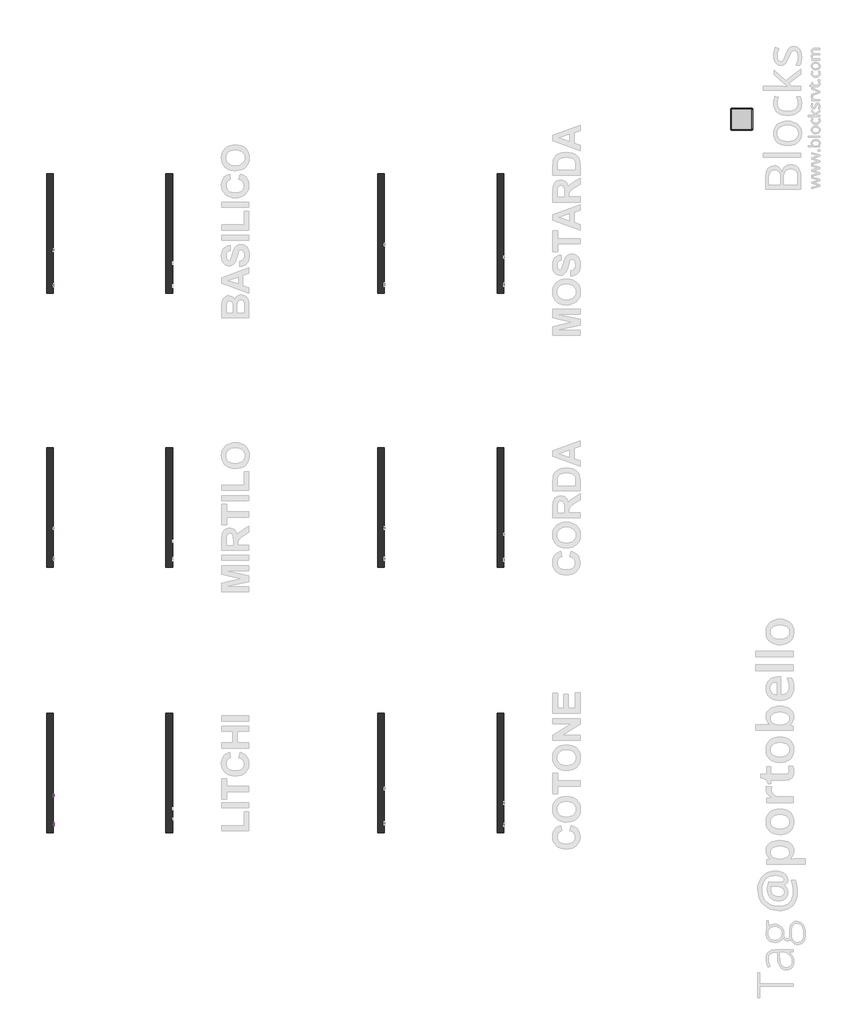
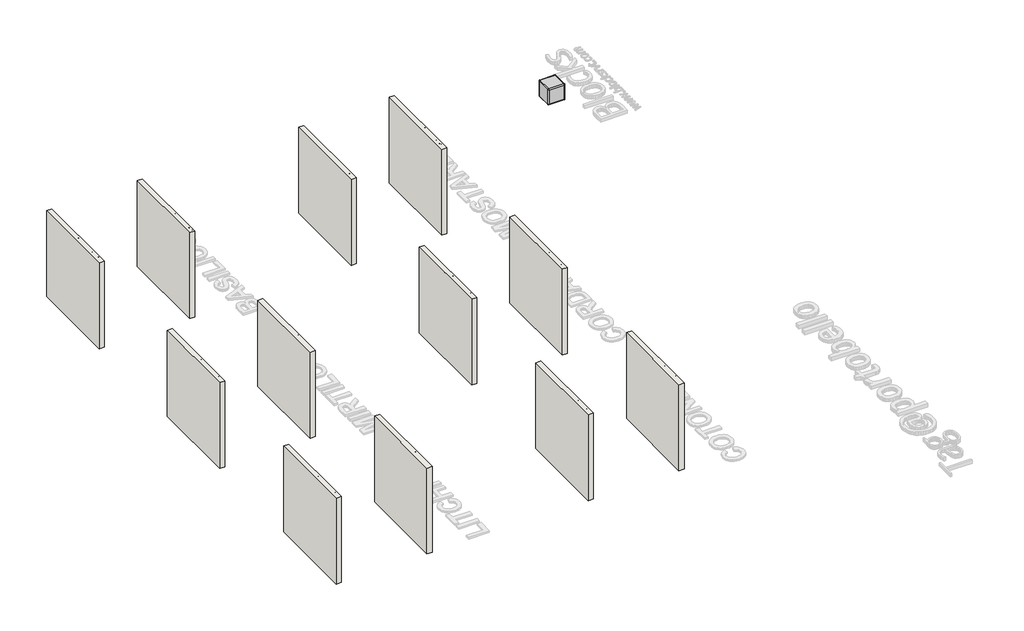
# One storey, part 1 of 9: 12 walls, 2 proxies, 1 furniture element.
"""IFC4 building model written with IfcOpenShell, lengths in millimetres."""

from ifc_helpers import new_model, si_unit, frame, origin, origin_with_axes, place, context, project, spatial, polyline, outline, extrude, transform, mapped, element, save
from components import branco_22256ad2

model = new_model("IFC4")

# Units and contexts
model_context = context("Model", 3, world=origin())
ifc_project = project(units=[si_unit("LENGTHUNIT", "METRE", prefix="MILLI")], contexts=[model_context])

# Site, building, storey
site = spatial("IfcSite", under=ifc_project)
building = spatial("IfcBuilding", under=site)
storey = spatial("IfcBuildingStorey", under=building, Name="PORTOBELLO - SHOWROOM", Elevation=0.0)

# Proxies
placement = place(None, origin())
element("IfcBuildingElementProxy", 1, Name="10mm Arial", ObjectType="10mm Arial", at=placement, inside=storey, context=model_context, shape_type="SweptSolid", body=[
    extrude(outline(polyline([(-8457.3307044, 2556.5874175), (-8457.3307044, 2657.0437276), (-8435.7237686, 2657.0437276), (-8415.1714278, 2586.2387063), (-8411.026624, 2571.4498501), (-8406.5384636, 2587.4649796), (-8386.3294794, 2657.0437276), (-8364.7225435, 2657.0437276), (-8364.7225435, 2556.5874175), (-8377.2795823, 2556.5874175), (-8377.2795823, 2644.4866889), (-8402.5162872, 2556.5874175), (-8419.5369608, 2556.5874175), (-8444.7736657, 2644.4866889), (-8444.7736657, 2556.5874175), (-8457.3307044, 2556.5874175)])), frame((-2200.641693, 0.0, 0.0), z_axis=(1.0, 0.0, 0.0), x_axis=(0.0, 1.0, 0.0)), (0.0, 0.0, 1.0), 20.0),
    extrude(outline(polyline([(-2180.641693, -8331.7603168), (-2180.641693, -8344.3173555), (-2200.641693, -8344.3173555), (-2200.641693, -8331.7603168), (-2180.641693, -8331.7603168)])), frame((0.0, 0.0, 2644.4866889), z_axis=(0.0, 0.0, 1.0), x_axis=(1.0, 0.0, 0.0)), (0.0, 0.0, 1.0), 12.5570388),
    extrude(outline(polyline([(-2180.641693, -8331.7603168), (-2180.641693, -8344.3173555), (-2200.641693, -8344.3173555), (-2200.641693, -8331.7603168), (-2180.641693, -8331.7603168)])), frame((0.0, 0.0, 2556.5874175), z_axis=(0.0, 0.0, 1.0), x_axis=(1.0, 0.0, 0.0)), (0.0, 0.0, 1.0), 73.7726028),
    extrude(outline(polyline([(-8312.9247586, 2556.5874175), (-8312.9247586, 2630.3600203), (-8300.3677198, 2630.3600203), (-8300.3677198, 2620.0593244), (-8290.7659998, 2628.9620687), (-8277.657138, 2631.9296501), (-8265.799075, 2629.5384171), (-8257.7056711, 2623.2598977), (-8253.941012, 2614.0260597), (-8253.2788245, 2601.8859538), (-8253.2788245, 2556.5874175), (-8265.8358632, 2556.5874175), (-8265.8358632, 2600.1936966), (-8267.2828657, 2611.3037329), (-8272.3964255, 2617.1775821), (-8281.0171269, 2619.3726113), (-8294.6410234, 2614.4429926), (-8298.9360457, 2607.2999505), (-8300.3677198, 2595.7300618), (-8300.3677198, 2556.5874175), (-8312.9247586, 2556.5874175)])), frame((-2200.641693, 0.0, 0.0), z_axis=(1.0, 0.0, 0.0), x_axis=(0.0, 1.0, 0.0)), (0.0, 0.0, 1.0), 20.0),
    extrude(outline(polyline([(-2180.641693, -8223.4558574), (-2180.641693, -8236.0128961), (-2200.641693, -8236.0128961), (-2200.641693, -8223.4558574), (-2180.641693, -8223.4558574)])), frame((0.0, 0.0, 2644.4866889), z_axis=(0.0, 0.0, 1.0), x_axis=(1.0, 0.0, 0.0)), (0.0, 0.0, 1.0), 12.5570388),
    extrude(outline(polyline([(-2180.641693, -8223.4558574), (-2180.641693, -8236.0128961), (-2200.641693, -8236.0128961), (-2200.641693, -8223.4558574), (-2180.641693, -8223.4558574)])), frame((0.0, 0.0, 2556.5874175), z_axis=(0.0, 0.0, 1.0), x_axis=(1.0, 0.0, 0.0)), (0.0, 0.0, 1.0), 73.7726028),
    extrude(outline(polyline([(-8163.8099232, 2556.5874175), (-8163.8099232, 2657.0437276), (-8151.2528845, 2657.0437276), (-8151.2528845, 2569.1444563), (-8101.0247294, 2569.1444563), (-8101.0247294, 2556.5874175), (-8163.8099232, 2556.5874175)])), frame((-2200.641693, 0.0, 0.0), z_axis=(1.0, 0.0, 0.0), x_axis=(0.0, 1.0, 0.0)), (0.0, 0.0, 1.0), 20.0),
    extrude(outline(polyline([(-2180.641693, -8075.9106518), (-2180.641693, -8088.4676906), (-2200.641693, -8088.4676906), (-2200.641693, -8075.9106518), (-2180.641693, -8075.9106518)])), frame((0.0, 0.0, 2644.4866889), z_axis=(0.0, 0.0, 1.0), x_axis=(1.0, 0.0, 0.0)), (0.0, 0.0, 1.0), 12.5570388),
    extrude(outline(polyline([(-2180.641693, -8075.9106518), (-2180.641693, -8088.4676906), (-2200.641693, -8088.4676906), (-2200.641693, -8075.9106518), (-2180.641693, -8075.9106518)])), frame((0.0, 0.0, 2556.5874175), z_axis=(0.0, 0.0, 1.0), x_axis=(1.0, 0.0, 0.0)), (0.0, 0.0, 1.0), 73.7726028),
    extrude(outline(polyline([(-8030.3913863, 2567.0597916), (-8028.8217565, 2556.2195355), (-8038.2150101, 2555.0177876), (-8048.7364351, 2557.1024523), (-8053.9848849, 2562.5716313), (-8055.5054638, 2576.8209272), (-8055.5054638, 2617.8029815), (-8064.9232429, 2617.8029815), (-8064.9232429, 2630.3600203), (-8055.5054638, 2630.3600203), (-8055.5054638, 2648.2881362), (-8042.9484251, 2655.6703015), (-8042.9484251, 2630.3600203), (-8030.3913863, 2630.3600203), (-8030.3913863, 2617.8029815), (-8042.9484251, 2617.8029815), (-8042.9484251, 2577.1888092), (-8042.2862375, 2570.7140861), (-8040.1402592, 2568.420955), (-8035.8605653, 2567.5748264), (-8030.3913863, 2567.0597916)])), frame((-2200.641693, 0.0, 0.0), z_axis=(1.0, 0.0, 0.0), x_axis=(0.0, 1.0, 0.0)), (0.0, 0.0, 1.0), 20.0),
    extrude(outline(polyline([(-7970.7454522, 2583.2711249), (-7958.1884134, 2581.701495), (-7961.6894237, 2570.5332108), (-7968.2683801, 2562.0933847), (-7977.3060144, 2556.7866869), (-7988.1830587, 2555.0177876), (-8001.5402408, 2557.4856627), (-8011.9850238, 2564.8892878), (-8018.7264614, 2576.9037007), (-8020.9736072, 2593.2039387), (-8017.1353718, 2614.0628479), (-8005.4367243, 2627.4660152), (-7988.354737, 2631.9296501), (-7977.7444071, 2630.3968085), (-7969.2616614, 2625.7982835), (-7963.1762801, 2618.3793299), (-7959.7580432, 2608.3852024), (-7972.315082, 2606.8155726), (-7978.1398803, 2616.2210889), (-7988.2566351, 2619.3726113), (-7996.3714988, 2617.8213756), (-8002.8124994, 2613.1676683), (-8007.0155512, 2605.1601036), (-8008.4165685, 2593.5472953), (-8007.046208, 2581.7781371), (-8002.9351267, 2573.7429812), (-7996.6106221, 2569.1168651), (-7988.5999917, 2567.5748264), (-7976.7664541, 2571.4253246), (-7970.7454522, 2583.2711249)])), frame((-2200.641693, 0.0, 0.0), z_axis=(1.0, 0.0, 0.0), x_axis=(0.0, 1.0, 0.0)), (0.0, 0.0, 1.0), 20.0),
    extrude(outline(polyline([(-7947.2010045, 2556.5874175), (-7947.2010045, 2657.0437276), (-7934.6439657, 2657.0437276), (-7934.6439657, 2620.1083753), (-7924.8521733, 2628.9743314), (-7912.7917752, 2631.9296501), (-7898.689632, 2628.7045513), (-7890.1302443, 2619.7895443), (-7887.5550703, 2603.2839054), (-7887.5550703, 2556.5874175), (-7900.1121091, 2556.5874175), (-7900.1121091, 2601.9840557), (-7904.1097601, 2615.2278075), (-7915.4405256, 2619.3726113), (-7925.7289587, 2616.5767082), (-7932.5960893, 2608.9983391), (-7934.6439657, 2595.7791127), (-7934.6439657, 2556.5874175), (-7947.2010045, 2556.5874175)])), frame((-2200.641693, 0.0, 0.0), z_axis=(1.0, 0.0, 0.0), x_axis=(0.0, 1.0, 0.0)), (0.0, 0.0, 1.0), 20.0),
    extrude(outline(polyline([(-2180.641693, -7857.7321032), (-2180.641693, -7870.289142), (-2200.641693, -7870.289142), (-2200.641693, -7857.7321032), (-2180.641693, -7857.7321032)])), frame((0.0, 0.0, 2644.4866889), z_axis=(0.0, 0.0, 1.0), x_axis=(1.0, 0.0, 0.0)), (0.0, 0.0, 1.0), 12.5570388),
    extrude(outline(polyline([(-2180.641693, -7857.7321032), (-2180.641693, -7870.289142), (-2200.641693, -7870.289142), (-2200.641693, -7857.7321032), (-2180.641693, -7857.7321032)])), frame((0.0, 0.0, 2556.5874175), z_axis=(0.0, 0.0, 1.0), x_axis=(1.0, 0.0, 0.0)), (0.0, 0.0, 1.0), 73.7726028),
])
element("IfcBuildingElementProxy", 2, Name="10mm Arial", ObjectType="10mm Arial", at=placement, inside=storey, context=model_context, shape_type="SweptSolid", body=[
    extrude(outline(polyline([(-7797.3307044, 2556.5874175), (-7797.3307044, 2657.0437276), (-7760.1010465, 2657.0437276), (-7745.0914611, 2656.0872344), (-7732.8900416, 2651.3906076), (-7724.9805787, 2641.678523), (-7721.9884718, 2627.98105), (-7724.0087571, 2616.1413811), (-7730.069613, 2606.2760123), (-7741.4034441, 2599.6173482), (-7759.2426552, 2597.3977935), (-7784.7736657, 2597.3977935), (-7784.7736657, 2556.5874175), (-7797.3307044, 2556.5874175)]), holes=[polyline([(-7784.7736657, 2609.9548323), (-7758.5068912, 2609.9548323), (-7740.0146896, 2614.5656199), (-7735.9128054, 2620.1145067), (-7734.5455106, 2627.5395916), (-7737.7706094, 2637.9383894), (-7746.2441581, 2643.6282975), (-7758.8011968, 2644.4866889), (-7784.7736657, 2644.4866889), (-7784.7736657, 2609.9548323)])]), frame((-2200.641693, 0.0, 0.0), z_axis=(1.0, 0.0, 0.0), x_axis=(0.0, 1.0, 0.0)), (0.0, 0.0, 1.0), 20.0),
    extrude(outline(polyline([(-7709.4314331, 2593.4737189), (-7706.7152377, 2611.2608133), (-7698.5666515, 2623.7626698), (-7688.4989475, 2629.887905), (-7676.4446808, 2631.9296501), (-7663.2530456, 2629.4433809), (-7652.7162921, 2621.9845735), (-7645.8093077, 2610.1418389), (-7643.5069795, 2594.5037885), (-7647.5782069, 2572.1610886), (-7659.4362699, 2559.5182107), (-7676.4446808, 2555.0177876), (-7689.7957316, 2557.4948597), (-7700.3202223, 2564.926076), (-7707.1536304, 2577.017131), (-7709.4314331, 2593.4737189)]), holes=[polyline([(-7696.8743943, 2593.4982443), (-7695.4212604, 2582.1337564), (-7691.0618588, 2574.0372868), (-7684.5012965, 2569.1904415), (-7676.4446808, 2567.5748264), (-7668.4248533, 2569.1996386), (-7661.8765538, 2574.074075), (-7657.5171522, 2582.2778435), (-7656.0640183, 2593.8906518), (-7657.5263492, 2604.924046), (-7661.913342, 2612.9101509), (-7668.4708386, 2617.7569962), (-7676.4446808, 2619.3726113), (-7684.5012965, 2617.7631276), (-7691.0618588, 2612.9346764), (-7695.4212604, 2604.8566009), (-7696.8743943, 2593.4982443)])]), frame((-2200.641693, 0.0, 0.0), z_axis=(1.0, 0.0, 0.0), x_axis=(0.0, 1.0, 0.0)), (0.0, 0.0, 1.0), 20.0),
    extrude(outline(polyline([(-7629.3803109, 2556.5874175), (-7629.3803109, 2630.3600203), (-7618.392902, 2630.3600203), (-7618.392902, 2619.4461877), (-7610.5938037, 2629.5016289), (-7602.7456545, 2631.9296501), (-7590.1395648, 2628.0546264), (-7594.3334195, 2616.7974374), (-7603.1625874, 2619.3726113), (-7610.2627099, 2616.8955392), (-7614.7876584, 2610.0284087), (-7616.8232721, 2595.3621798), (-7616.8232721, 2556.5874175), (-7629.3803109, 2556.5874175)])), frame((-2200.641693, 0.0, 0.0), z_axis=(1.0, 0.0, 0.0), x_axis=(0.0, 1.0, 0.0)), (0.0, 0.0, 1.0), 20.0),
    extrude(outline(polyline([(-7555.6077082, 2567.0597916), (-7554.0380783, 2556.2195355), (-7563.4313319, 2555.0177876), (-7573.952757, 2557.1024523), (-7579.2012068, 2562.5716313), (-7580.7217857, 2576.8209272), (-7580.7217857, 2617.8029815), (-7590.1395648, 2617.8029815), (-7590.1395648, 2628.0546264), (-7590.1395648, 2630.3600203), (-7580.7217857, 2630.3600203), (-7580.7217857, 2648.2881362), (-7568.1647469, 2655.6703015), (-7568.1647469, 2630.3600203), (-7555.6077082, 2630.3600203), (-7555.6077082, 2617.8029815), (-7568.1647469, 2617.8029815), (-7568.1647469, 2577.1888092), (-7567.5025593, 2570.7140861), (-7565.356581, 2568.420955), (-7561.0768871, 2567.5748264), (-7555.6077082, 2567.0597916)])), frame((-2200.641693, 0.0, 0.0), z_axis=(1.0, 0.0, 0.0), x_axis=(0.0, 1.0, 0.0)), (0.0, 0.0, 1.0), 20.0),
    extrude(outline(polyline([(-7546.1899291, 2593.4737189), (-7543.4737337, 2611.2608133), (-7535.3251475, 2623.7626698), (-7525.2574435, 2629.887905), (-7513.2031768, 2631.9296501), (-7500.0115416, 2629.4433809), (-7489.4747882, 2621.9845735), (-7482.5678037, 2610.1418389), (-7480.2654755, 2594.5037885), (-7484.336703, 2572.1610886), (-7496.1947659, 2559.5182107), (-7513.2031768, 2555.0177876), (-7526.5542276, 2557.4948597), (-7537.0787183, 2564.926076), (-7543.9121264, 2577.017131), (-7546.1899291, 2593.4737189)]), holes=[polyline([(-7533.6328903, 2593.4982443), (-7532.1797564, 2582.1337564), (-7527.8203548, 2574.0372868), (-7521.2597925, 2569.1904415), (-7513.2031768, 2567.5748264), (-7505.1833493, 2569.1996386), (-7498.6350498, 2574.074075), (-7494.2756482, 2582.2778435), (-7492.8225143, 2593.8906518), (-7494.2848452, 2604.924046), (-7498.671838, 2612.9101509), (-7505.2293346, 2617.7569962), (-7513.2031768, 2619.3726113), (-7521.2597925, 2617.7631276), (-7527.8203548, 2612.9346764), (-7532.1797564, 2604.8566009), (-7533.6328903, 2593.4982443)])]), frame((-2200.641693, 0.0, 0.0), z_axis=(1.0, 0.0, 0.0), x_axis=(0.0, 1.0, 0.0)), (0.0, 0.0, 1.0), 20.0),
    extrude(outline(polyline([(-7453.5817682, 2556.5874175), (-7466.1388069, 2556.5874175), (-7466.1388069, 2657.0437276), (-7453.5817682, 2657.0437276), (-7453.5817682, 2619.7895443), (-7444.7893885, 2628.8946236), (-7433.8632932, 2631.9296501), (-7421.281729, 2629.1950606), (-7411.5205934, 2621.5063269), (-7405.5241169, 2609.5501621), (-7403.3536131, 2594.5773649), (-7405.6007589, 2577.8142086), (-7412.3421965, 2565.343009), (-7422.2351565, 2557.599093), (-7433.9368696, 2555.0177876), (-7445.1020882, 2558.3471197), (-7453.5817682, 2568.3351159), (-7453.5817682, 2556.5874175)]), holes=[polyline([(-7453.5817682, 2593.9887537), (-7450.1482029, 2576.4285198), (-7443.5692465, 2569.7882497), (-7435.0159901, 2567.5748264), (-7427.7687148, 2569.2057699), (-7421.5760346, 2574.0986005), (-7417.3269975, 2582.2226612), (-7415.9106518, 2593.5472953), (-7417.2687495, 2605.0374763), (-7421.3430426, 2613.0695665), (-7427.3425848, 2617.7968501), (-7434.4764299, 2619.3726113), (-7441.7237052, 2617.7416678), (-7447.9163854, 2612.8488373), (-7452.1654225, 2604.8719294), (-7453.5817682, 2593.9887537)])]), frame((-2200.641693, 0.0, 0.0), z_axis=(1.0, 0.0, 0.0), x_axis=(0.0, 1.0, 0.0)), (0.0, 0.0, 1.0), 20.0),
    extrude(outline(polyline([(-7337.5763123, 2578.5622353), (-7325.2645282, 2576.9926055), (-7329.700572, 2567.7158478), (-7336.7792347, 2560.7812722), (-7346.3411009, 2556.4586588), (-7358.226755, 2555.0177876), (-7372.9604289, 2557.5040568), (-7384.2973257, 2564.9628642), (-7391.5262069, 2576.909832), (-7393.935834, 2592.8605822), (-7391.5016815, 2609.347827), (-7384.1992239, 2621.6780052), (-7373.0156112, 2629.3667389), (-7358.9379935, 2631.9296501), (-7345.2987686, 2629.3728702), (-7334.4002645, 2621.7025306), (-7327.2541567, 2609.3968779), (-7324.8721208, 2592.9341586), (-7324.9456972, 2589.5496443), (-7381.3787952, 2589.5496443), (-7379.2052258, 2580.1502593), (-7374.1560454, 2573.2402091), (-7366.8689162, 2568.9911721), (-7357.9815003, 2567.5748264), (-7345.6697162, 2570.1990513), (-7337.5763123, 2578.5622353)]), holes=[polyline([(-7381.3787952, 2602.106683), (-7337.4291595, 2602.106683), (-7342.4568801, 2613.4864994), (-7349.7777318, 2617.9010833), (-7358.9870445, 2619.3726113), (-7374.450351, 2614.6759845), (-7379.3155904, 2609.1853457), (-7381.3787952, 2602.106683)])]), frame((-2200.641693, 0.0, 0.0), z_axis=(1.0, 0.0, 0.0), x_axis=(0.0, 1.0, 0.0)), (0.0, 0.0, 1.0), 20.0),
    extrude(outline(polyline([(-2180.641693, -7299.7580432), (-2180.641693, -7312.315082), (-2200.641693, -7312.315082), (-2200.641693, -7299.7580432), (-2180.641693, -7299.7580432)])), frame((0.0, 0.0, 2556.5874175), z_axis=(0.0, 0.0, 1.0), x_axis=(1.0, 0.0, 0.0)), (0.0, 0.0, 1.0), 100.4563101),
    extrude(outline(polyline([(-2180.641693, -7268.3654463), (-2180.641693, -7280.9224851), (-2200.641693, -7280.9224851), (-2200.641693, -7268.3654463), (-2180.641693, -7268.3654463)])), frame((0.0, 0.0, 2556.5874175), z_axis=(0.0, 0.0, 1.0), x_axis=(1.0, 0.0, 0.0)), (0.0, 0.0, 1.0), 100.4563101),
    extrude(outline(polyline([(-7252.6691479, 2593.4737189), (-7249.9529525, 2611.2608133), (-7241.8043663, 2623.7626698), (-7231.7366623, 2629.887905), (-7219.6823956, 2631.9296501), (-7206.4907604, 2629.4433809), (-7195.9540069, 2621.9845735), (-7189.0470225, 2610.1418389), (-7186.7446943, 2594.5037885), (-7190.8159217, 2572.1610886), (-7202.6739847, 2559.5182107), (-7219.6823956, 2555.0177876), (-7233.0334464, 2557.4948597), (-7243.5579371, 2564.926076), (-7250.3913452, 2577.017131), (-7252.6691479, 2593.4737189)]), holes=[polyline([(-7240.1121091, 2593.4982443), (-7238.6589752, 2582.1337564), (-7234.2995736, 2574.0372868), (-7227.7390113, 2569.1904415), (-7219.6823956, 2567.5748264), (-7211.6625681, 2569.1996386), (-7205.1142686, 2574.074075), (-7200.754867, 2582.2778435), (-7199.3017331, 2593.8906518), (-7200.764064, 2604.924046), (-7205.1510568, 2612.9101509), (-7211.7085534, 2617.7569962), (-7219.6823956, 2619.3726113), (-7227.7390113, 2617.7631276), (-7234.2995736, 2612.9346764), (-7238.6589752, 2604.8566009), (-7240.1121091, 2593.4982443)])]), frame((-2200.641693, 0.0, 0.0), z_axis=(1.0, 0.0, 0.0), x_axis=(0.0, 1.0, 0.0)), (0.0, 0.0, 1.0), 20.0),
])

# Furniture
branco_shape = branco_22256ad2(model_context)
element("IfcFurniture", 3, ObjectType="Blks_Mob_Blocks Revit_Cubo : Branco", at=placement, inside=storey, context=model_context, shape_type="MappedRepresentation", body=[
    mapped(branco_shape, transform((13372.9702737, 7532.453015, 0.0), x_axis=(1.0, 0.0, 0.0), y_axis=(0.0, 1.0, 0.0), z_axis=(0.0, 0.0, 1.0))),
])

# Walls
element("IfcWall", 4, ObjectType="PORTOBELLO - ARTEMATICA - MINI COTONE - 15.5X15.5 - MATE - BOLD", at=placement, inside=storey, context=model_context, shape_type="SweptSolid", body=[
    extrude(outline(polyline([(5285.6593854, -5896.9795949), (5285.6593854, -8596.9795949), (5135.6593854, -8596.9795949), (5135.6593854, -5896.9795949), (5285.6593854, -5896.9795949)])), origin_with_axes(), (0.0, 0.0, 1.0), 2700.0),
])
element("IfcWall", 5, ObjectType="PORTOBELLO - ARTEMATICA - COTONE - 15.5X15.5 - MATE - BOLD", at=placement, inside=storey, context=model_context, shape_type="SweptSolid", body=[
    extrude(outline(polyline([(7985.6593854, -5896.9795949), (7985.6593854, -8596.9795949), (7835.6593854, -8596.9795949), (7835.6593854, -5896.9795949), (7985.6593854, -5896.9795949)])), origin_with_axes(), (0.0, 0.0, 1.0), 2700.0),
])
element("IfcWall", 6, ObjectType="PORTOBELLO - ARTEMATICA - CORDA - 15.5X15.5 - MATE - BOLD", at=placement, inside=storey, context=model_context, shape_type="SweptSolid", body=[
    extrude(outline(polyline([(7985.6593854, 103.0204051), (7985.6593854, -2596.9795949), (7835.6593854, -2596.9795949), (7835.6593854, 103.0204051), (7985.6593854, 103.0204051)])), origin_with_axes(), (0.0, 0.0, 1.0), 2700.0),
])
element("IfcWall", 7, ObjectType="PORTOBELLO - ARTEMATICA - MINI CORDA - 15.5X15.5 - MATE - BOLD", at=placement, inside=storey, context=model_context, shape_type="SweptSolid", body=[
    extrude(outline(polyline([(5285.6593854, 103.0204051), (5285.6593854, -2596.9795949), (5135.6593854, -2596.9795949), (5135.6593854, 103.0204051), (5285.6593854, 103.0204051)])), origin_with_axes(), (0.0, 0.0, 1.0), 2700.0),
])
element("IfcWall", 8, ObjectType="PORTOBELLO - ARTEMATICA - MOSTARDA - 15.5X15.5 - MATE - BOLD", at=placement, inside=storey, context=model_context, shape_type="SweptSolid", body=[
    extrude(outline(polyline([(7985.6593854, 6303.0204051), (7985.6593854, 3603.0204051), (7835.6593854, 3603.0204051), (7835.6593854, 6303.0204051), (7985.6593854, 6303.0204051)])), origin_with_axes(), (0.0, 0.0, 1.0), 2700.0),
])
element("IfcWall", 9, ObjectType="PORTOBELLO - ARTEMATICA - MINI MOSTARDA - 15.5X15.5 - MATE - BOLD", at=placement, inside=storey, context=model_context, shape_type="SweptSolid", body=[
    extrude(outline(polyline([(5285.6593854, 6303.0204051), (5285.6593854, 3603.0204051), (5135.6593854, 3603.0204051), (5135.6593854, 6303.0204051), (5285.6593854, 6303.0204051)])), origin_with_axes(), (0.0, 0.0, 1.0), 2700.0),
])
element("IfcWall", 10, ObjectType="PORTOBELLO - ARTEMATICA - LITCHI - 15.5X15.5 - MATE - BOLD", at=placement, inside=storey, context=model_context, shape_type="SweptSolid", body=[
    extrude(outline(polyline([(499.3339478, -5896.9795949), (499.3339478, -8596.9795949), (349.3339478, -8596.9795949), (349.3339478, -5896.9795949), (499.3339478, -5896.9795949)])), origin_with_axes(), (0.0, 0.0, 1.0), 2700.0),
])
element("IfcWall", 11, ObjectType="PORTOBELLO - ARTEMATICA - MINI LITCHI - 15.5X15.5 - MATE - BOLD", at=placement, inside=storey, context=model_context, shape_type="SweptSolid", body=[
    extrude(outline(polyline([(-2200.641693, -5896.9795949), (-2200.641693, -8596.9795949), (-2350.641693, -8596.9795949), (-2350.641693, -5896.9795949), (-2200.641693, -5896.9795949)])), origin_with_axes(), (0.0, 0.0, 1.0), 2700.0),
])
element("IfcWall", 12, ObjectType="PORTOBELLO - ARTEMATICA - MIRTILO - 15.5X15.5 - MATE - BOLD", at=placement, inside=storey, context=model_context, shape_type="SweptSolid", body=[
    extrude(outline(polyline([(499.3339478, 103.0204051), (499.3339478, -2596.9795949), (349.3339478, -2596.9795949), (349.3339478, 103.0204051), (499.3339478, 103.0204051)])), origin_with_axes(), (0.0, 0.0, 1.0), 2700.0),
])
element("IfcWall", 13, ObjectType="PORTOBELLO - ARTEMATICA - BASILICO - 15.5X15.5 - MATE - BOLD", at=placement, inside=storey, context=model_context, shape_type="SweptSolid", body=[
    extrude(outline(polyline([(499.3339478, 6303.0204051), (499.3339478, 3603.0204051), (349.3339478, 3603.0204051), (349.3339478, 6303.0204051), (499.3339478, 6303.0204051)])), origin_with_axes(), (0.0, 0.0, 1.0), 2700.0),
])
element("IfcWall", 14, ObjectType="PORTOBELLO - ARTEMATICA - MINI MIRTILO - 15.5X15.5 - MATE - BOLD", at=placement, inside=storey, context=model_context, shape_type="SweptSolid", body=[
    extrude(outline(polyline([(-2200.641693, 103.0204051), (-2200.641693, -2596.9795949), (-2350.641693, -2596.9795949), (-2350.641693, 103.0204051), (-2200.641693, 103.0204051)])), origin_with_axes(), (0.0, 0.0, 1.0), 2700.0),
])
element("IfcWall", 15, ObjectType="PORTOBELLO - ARTEMATICA - MINI BASILICO - 15.5X15.5 - MATE - BOLD", at=placement, inside=storey, context=model_context, shape_type="SweptSolid", body=[
    extrude(outline(polyline([(-2200.641693, 6303.0204051), (-2200.641693, 3603.0204051), (-2350.641693, 3603.0204051), (-2350.641693, 6303.0204051), (-2200.641693, 6303.0204051)])), origin_with_axes(), (0.0, 0.0, 1.0), 2700.0),
])

save(model, "model.ifc")
